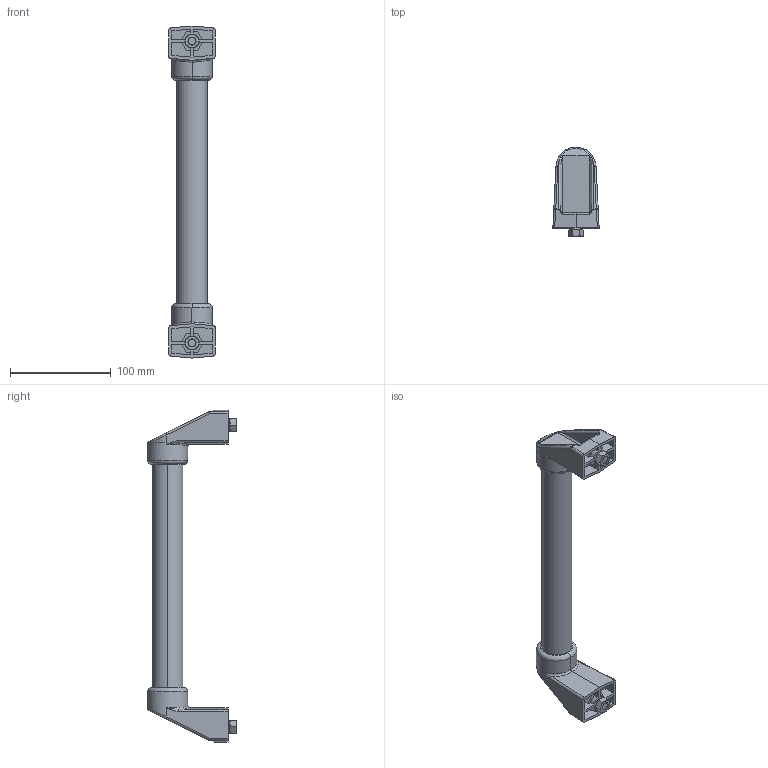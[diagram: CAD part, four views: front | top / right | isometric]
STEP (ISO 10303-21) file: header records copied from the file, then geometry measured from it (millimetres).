
FILE_DESCRIPTION((''),'2;1');
FILE_NAME('SCE-UHK13_ASM','2019-04-23T10:22:11',('dougp'),('SAGINAW CONTROL & ENGINEERING'),'CREO PARAMETRIC BY PTC INC, 2017260','CREO PARAMETRIC BY PTC INC, 2017260','');
FILE_SCHEMA(('AUTOMOTIVE_DESIGN { 1 0 10303 214 1 1 1 1 }'));
Products named in the file (5): 101684-END-STAY; 101684-TUBE; 107253; 103256; SCE-UHK13_ASM
Assembly tree (7 placements, depth 2):
  SCE-UHK13_ASM
    101684-END-STAY  x2
    101684-TUBE
    107253  x2
    103256  x2
Bounding box: 46 x 88.41 x 330 mm (x, y, z)
Volume: 22506.8 mm3; surface area: 92296.6 mm2
Topology: 5 solids, 11 shells, 278 faces, 692 edges, 442 vertices
Faces by surface type: plane 158, cylinder 66, bspline 24, cone 16, torus 10, sphere 4
Entity records: 6984 total; most frequent: CARTESIAN_POINT 2043, ORIENTED_EDGE 684, DIRECTION 636, EDGE_CURVE 352, PRESENTATION_STYLE_ASSIGNMENT 270, STYLED_ITEM 270, CURVE_STYLE 266, VERTEX_POINT 225
